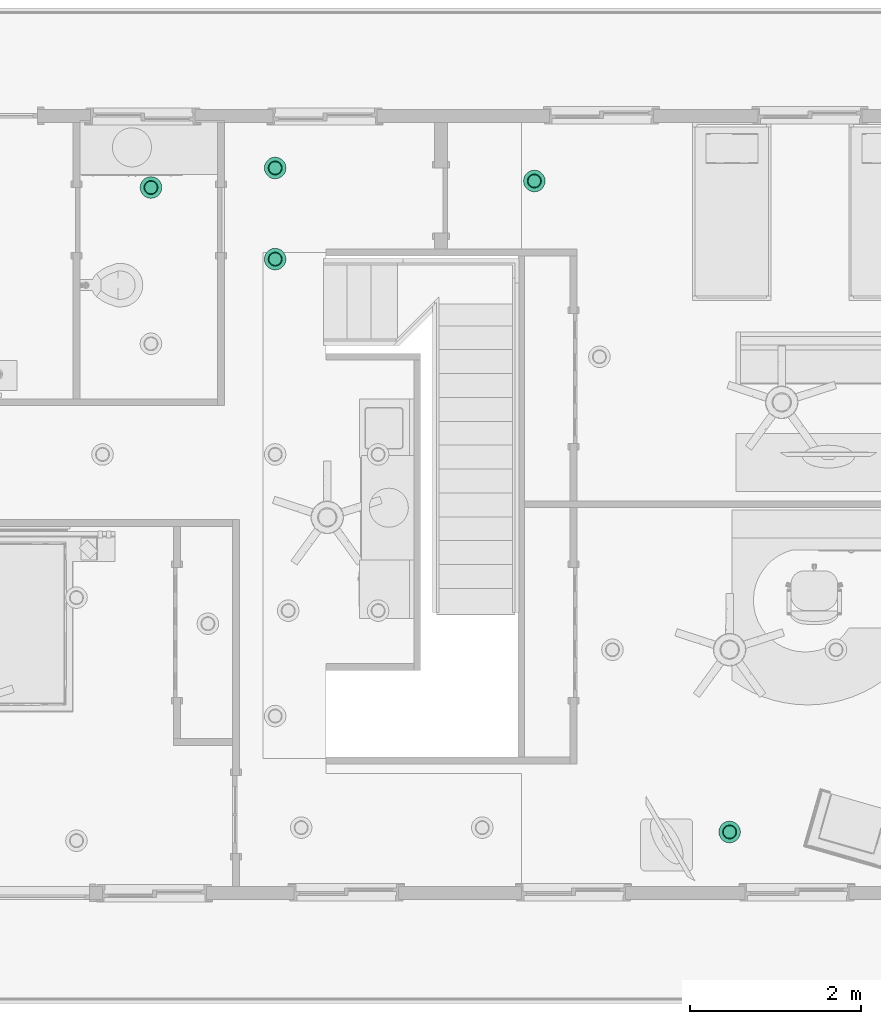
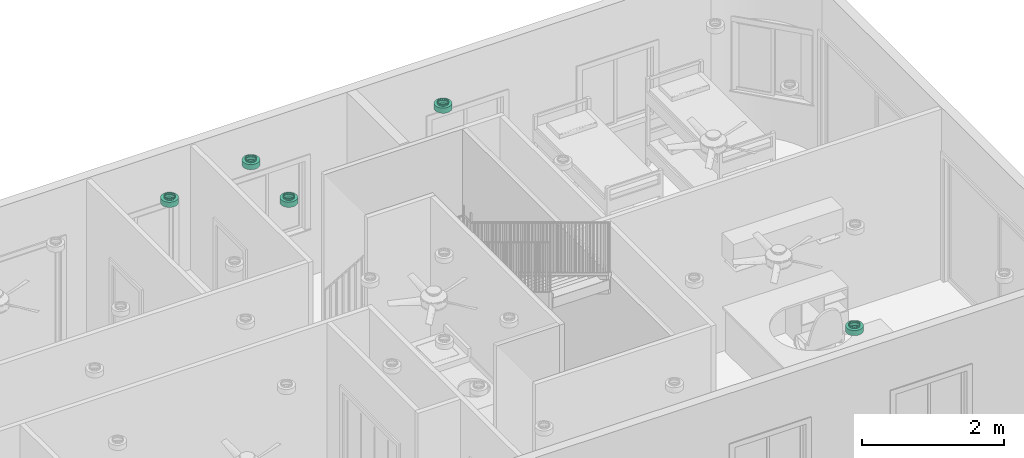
# One storey, part 18 of 28: 5 flow terminals.
"""IFC2X3 building model written with IfcOpenShell, lengths in feet."""

import ifcopenshell
import ifcopenshell.guid

model = None  # the IFC model being written
_history = None  # IfcOwnerHistory: only IFC2X3 demands one
_inside = {}  # id of a spatial element -> (the spatial element, [elements in it])
_under = {}  # id of a project, library or spatial element -> (it, [spatial elements below it])
_declared = {}  # id of a project -> (the project, [libraries it declares])
_typed = {}  # id of a type object -> (the type object, [elements of that type])
_made_of = {}  # id of a material, layer set ... -> (it, [elements and type objects made of it])


def new_model(schema):
    """Start an empty IFC model of exactly this schema.

    Asked for "IFC4X3", IfcOpenShell would pick the latest addendum, in which some entities
    have other attributes; the version numbers below select the first issue.
    IFC2X3 requires an IfcOwnerHistory on every rooted entity: one is made here for all.
    """
    global model, _history
    if schema == "IFC4X3":
        model = ifcopenshell.file(schema_version=(4, 3, 0, 0))
    else:
        model = ifcopenshell.file(schema=schema)
    _inside.clear()
    _under.clear()
    _declared.clear()
    _typed.clear()
    _made_of.clear()
    _history = None
    if model.schema == "IFC2X3":
        org = make("IfcOrganization", Name="unknown")
        user = make(
            "IfcPersonAndOrganization",
            ThePerson=make("IfcPerson", FamilyName="unknown"),
            TheOrganization=org,
        )
        app = make(
            "IfcApplication",
            ApplicationDeveloper=org,
            Version="unknown",
            ApplicationFullName="unknown",
            ApplicationIdentifier="unknown",
        )
        _history = make(
            "IfcOwnerHistory",
            OwningUser=user,
            OwningApplication=app,
            ChangeAction="ADDED",
            CreationDate=0,
        )
    return model


def make(cls, **values):
    """One entity of the class cls with the attributes given. An attribute that is None is left unset."""
    return model.create_entity(
        cls, **{name: value for name, value in values.items() if value is not None}
    )


def entity(cls, *values):
    """Any entity or typed value of the class cls, its attributes in the order of the schema. None: left unset."""
    e = model.create_entity(cls)
    for i, value in enumerate(values):
        if value is not None:
            e[i] = value
    return e


def rooted(cls, **values):
    """An entity with a GlobalId (a new one), such as an element, a storey or a relation."""
    return make(cls, GlobalId=ifcopenshell.guid.new(), OwnerHistory=_history, **values)


def si_unit(unit_type, name, prefix=None):
    """IfcSIUnit, for example si_unit("LENGTHUNIT", "METRE", prefix="MILLI")."""
    return make("IfcSIUnit", UnitType=unit_type, Prefix=prefix, Name=name)


def converted_unit(unit_type, name, factor, base, dimensions=None, offset=None):
    """IfcConversionBasedUnit, such as the inch: factor (a typed value) times the base unit."""
    return make(
        "IfcConversionBasedUnit"
        if offset is None
        else "IfcConversionBasedUnitWithOffset",
        ConversionOffset=offset,
        Dimensions=None
        if dimensions is None
        else entity("IfcDimensionalExponents", *dimensions),
        UnitType=unit_type,
        Name=name,
        ConversionFactor=make(
            "IfcMeasureWithUnit", ValueComponent=factor, UnitComponent=base
        ),
    )


def derived_unit(unit_type, elements):
    """IfcDerivedUnit: a product of units, each with its exponent."""
    return make(
        "IfcDerivedUnit",
        Elements=[
            make("IfcDerivedUnitElement", Unit=unit, Exponent=power)
            for unit, power in elements
        ],
        UnitType=unit_type,
    )


def assignment(units):
    """IfcUnitAssignment: the units of a project."""
    return None if units is None else make("IfcUnitAssignment", Units=units)


def point(xyz):
    """IfcCartesianPoint."""
    return None if xyz is None else make("IfcCartesianPoint", Coordinates=xyz)


def direction(xyz):
    """IfcDirection."""
    return None if xyz is None else make("IfcDirection", DirectionRatios=xyz)


def frame(location, z_axis=None, x_axis=None):
    """IfcAxis2Placement3D, a coordinate frame: its origin and axes. An axis left out is left unset."""
    return make(
        "IfcAxis2Placement3D",
        Location=point(location),
        Axis=direction(z_axis),
        RefDirection=direction(x_axis),
    )


def origin():
    """The frame at (0, 0, 0) with its axes left unset."""
    return frame((0.0, 0.0, 0.0))


def place(relative_to, where):
    """IfcLocalPlacement: puts the frame where relative to a parent placement (None: the world)."""
    return make(
        "IfcLocalPlacement", PlacementRelTo=relative_to, RelativePlacement=where
    )


def context(
    kind, dimensions, precision=None, world=None, true_north=None, identifier=None
):
    """IfcGeometricRepresentationContext, for example the 3D "Model" context."""
    return make(
        "IfcGeometricRepresentationContext",
        ContextIdentifier=identifier,
        ContextType=kind,
        CoordinateSpaceDimension=dimensions,
        Precision=precision,
        WorldCoordinateSystem=world,
        TrueNorth=true_north,
    )


def subcontext(parent, identifier, kind, view, scale=None):
    """IfcGeometricRepresentationSubContext, for example "Body" below "Model"."""
    return make(
        "IfcGeometricRepresentationSubContext",
        ContextIdentifier=identifier,
        ContextType=kind,
        ParentContext=parent,
        TargetScale=scale,
        TargetView=view,
    )


def project(units=None, contexts=None):
    """IfcProject with its units and contexts."""
    return rooted(
        "IfcProject",
        Name="project",
        RepresentationContexts=contexts,
        UnitsInContext=assignment(units),
    )


def spatial(cls, under=None, at=None, **own):
    """A site, building, storey or space (cls), placed at a placement, below another one or the project."""
    s = rooted(cls, ObjectPlacement=at, **own)
    if under is not None:
        _under.setdefault(under.id(), (under, []))[1].append(s)
    return s


def faces_of(points, faces, orient=None, outer=None):
    """IfcFace entities. A face is a list of loops; a loop is a list of indices into points, from 0.

    orient and outer hold one flag for each loop. By default every Orientation is true, the
    first loop of a face is its IfcFaceOuterBound and the others are IfcFaceBound.
    """
    made = []
    for i, loops in enumerate(faces):
        bounds = []
        for j, loop in enumerate(loops):
            is_outer = j == 0 if outer is None else outer[i][j]
            bounds.append(
                make(
                    "IfcFaceOuterBound" if is_outer else "IfcFaceBound",
                    Bound=make("IfcPolyLoop", Polygon=[points[k] for k in loop]),
                    Orientation=True if orient is None else orient[i][j],
                )
            )
        made.append(make("IfcFace", Bounds=bounds))
    return made


def faceted_brep(points, faces, orient=None, outer=None, voids=None):
    """IfcFacetedBrep: a solid bounded by flat faces; with voids (closed shells), ...WithVoids."""
    shared = [point(p) for p in points]
    hull = make("IfcClosedShell", CfsFaces=faces_of(shared, faces, orient, outer))
    if voids is None:
        return make("IfcFacetedBrep", Outer=hull)
    return make(
        "IfcFacetedBrepWithVoids",
        Outer=hull,
        Voids=[
            make(cls, CfsFaces=faces_of(shared, fs, o, b)) for cls, fs, o, b in voids
        ],
    )


def shape(context_of_items, identifier, shape_type, items):
    """IfcShapeRepresentation: the items that make up one representation, for example the "Body"."""
    return make(
        "IfcShapeRepresentation",
        ContextOfItems=context_of_items,
        RepresentationIdentifier=identifier,
        RepresentationType=shape_type,
        Items=items,
    )


def source(mapping_origin, context_of_items, identifier, shape_type, items):
    """IfcRepresentationMap: a shape defined once, which mapped items show again and again."""
    return make(
        "IfcRepresentationMap",
        MappingOrigin=mapping_origin,
        MappedRepresentation=shape(context_of_items, identifier, shape_type, items),
    )


def transform(
    local_origin,
    x_axis=None,
    y_axis=None,
    z_axis=None,
    scale=None,
    scale2=None,
    scale3=None,
    uniform=True,
):
    """IfcCartesianTransformationOperator3D, or its non-uniform kind. x_axis, y_axis, z_axis: its Axis1, 2, 3."""
    if uniform:
        return make(
            "IfcCartesianTransformationOperator3D",
            Axis1=direction(x_axis),
            Axis2=direction(y_axis),
            LocalOrigin=point(local_origin),
            Scale=scale,
            Axis3=direction(z_axis),
        )
    return make(
        "IfcCartesianTransformationOperator3DnonUniform",
        Axis1=direction(x_axis),
        Axis2=direction(y_axis),
        LocalOrigin=point(local_origin),
        Scale=scale,
        Axis3=direction(z_axis),
        Scale2=scale2,
        Scale3=scale3,
    )


def mapped(mapping_source, mapping_target):
    """IfcMappedItem: shows the shape of a source again, moved by a transform."""
    return make(
        "IfcMappedItem", MappingSource=mapping_source, MappingTarget=mapping_target
    )


def material(Name=None, Category=None):
    """IfcMaterial."""
    return make("IfcMaterial", Name=Name, Category=Category)


def material_list(materials):
    """IfcMaterialList."""
    return make("IfcMaterialList", Materials=materials)


def made_of(thing, what):
    """Note that an element or type object is made of a material, layer set ...; save() writes the relation."""
    if what is not None:
        _made_of.setdefault(what.id(), (what, []))[1].append(thing)
    return thing


def type_object(cls, material=None, **own):
    """A type object (cls), such as IfcWallType, which elements share."""
    return made_of(rooted(cls, **own), material)


def type_shapes(of_type, sources):
    """Give a type object the sources (RepresentationMaps) that its elements show as mapped items."""
    of_type.RepresentationMaps = sources


def element(
    cls,
    number,
    at=None,
    inside=None,
    cuts=None,
    type_object=None,
    material=None,
    context=None,
    identifier="Body",
    shape_type=None,
    held_by="IfcProductDefinitionShape",
    body=None,
    shapes=None,
    **own,
):
    """One element of the class cls, such as IfcWall. Its Tag is "e" and its number.

    at: its placement. inside: the storey or other place that contains it. cuts: it is an
    opening in that element (IfcRelVoidsElement). A single representation is given by context,
    identifier, shape_type and body (its items); several are given by shapes. held_by: the class
    of the entity that holds the representations. save() writes the other relations.
    """
    e = rooted(cls, Tag="e%d" % number, ObjectPlacement=at, **own)
    if body is not None:
        shapes = [shape(context, identifier, shape_type, body)]
    if shapes is not None:
        e.Representation = make(held_by, Representations=shapes)
    if inside is not None:
        _inside.setdefault(inside.id(), (inside, []))[1].append(e)
    if cuts is not None:
        rooted(
            "IfcRelVoidsElement", RelatingBuildingElement=cuts, RelatedOpeningElement=e
        )
    if type_object is not None:
        _typed.setdefault(type_object.id(), (type_object, []))[1].append(e)
    return made_of(e, material)


def aggregate(whole, parts):
    """IfcRelAggregates: a whole, such as a stair, and the parts it consists of."""
    return rooted("IfcRelAggregates", RelatingObject=whole, RelatedObjects=parts)


def save(model, path):
    """Write the relations noted so far, then the file.

    IfcRelAggregates (storeys below a building ...), IfcRelContainedInSpatialStructure (elements
    in a storey), IfcRelDefinesByType, IfcRelAssociatesMaterial and IfcRelDeclares: one each for
    every whole, place, type object, material and project.
    """
    for whole, parts in _under.values():
        aggregate(whole, parts)
    for where, things in _inside.values():
        rooted(
            "IfcRelContainedInSpatialStructure",
            RelatedElements=things,
            RelatingStructure=where,
        )
    for kind, things in _typed.values():
        rooted("IfcRelDefinesByType", RelatedObjects=things, RelatingType=kind)
    for what, things in _made_of.values():
        rooted("IfcRelAssociatesMaterial", RelatedObjects=things, RelatingMaterial=what)
    for by, libraries in _declared.values():
        rooted("IfcRelDeclares", RelatingContext=by, RelatedDefinitions=libraries)
    model.write(path)


model = new_model("IFC2X3")

# Units and contexts
model_context = context("Model", 3, precision=0.0001, world=origin(), true_north=direction((6.12303176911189e-17, 1.0)))
body_context = subcontext(model_context, "Body", "Model", "MODEL_VIEW")
ifc_project = project(units=[converted_unit("LENGTHUNIT", "FOOT", entity("IfcRatioMeasure", 0.3048), si_unit("LENGTHUNIT", "METRE"), dimensions=[1, 0, 0, 0, 0, 0, 0]), converted_unit("AREAUNIT", "SQUARE FOOT", entity("IfcRatioMeasure", 0.09290304), si_unit("AREAUNIT", "SQUARE_METRE"), dimensions=[2, 0, 0, 0, 0, 0, 0]), converted_unit("VOLUMEUNIT", "CUBIC FOOT", entity("IfcRatioMeasure", 0.028316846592), si_unit("VOLUMEUNIT", "CUBIC_METRE"), dimensions=[3, 0, 0, 0, 0, 0, 0]), converted_unit("PLANEANGLEUNIT", "DEGREE", entity("IfcRatioMeasure", 0.0174532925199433), si_unit("PLANEANGLEUNIT", "RADIAN"), dimensions=[0, 0, 0, 0, 0, 0, 0]), si_unit("MASSUNIT", "GRAM", prefix="KILO"), derived_unit("MASSDENSITYUNIT", [(si_unit("MASSUNIT", "GRAM", prefix="KILO"), 1), (si_unit("LENGTHUNIT", "METRE"), -3)]), si_unit("TIMEUNIT", "SECOND"), si_unit("FREQUENCYUNIT", "HERTZ"), si_unit("THERMODYNAMICTEMPERATUREUNIT", "DEGREE_CELSIUS"), derived_unit("THERMALTRANSMITTANCEUNIT", [(si_unit("MASSUNIT", "GRAM", prefix="KILO"), 1), (si_unit("THERMODYNAMICTEMPERATUREUNIT", "KELVIN"), -1), (si_unit("TIMEUNIT", "SECOND"), -3)]), derived_unit("VOLUMETRICFLOWRATEUNIT", [(si_unit("LENGTHUNIT", "METRE"), 3), (si_unit("TIMEUNIT", "SECOND"), -1)]), si_unit("ELECTRICCURRENTUNIT", "AMPERE"), si_unit("ELECTRICVOLTAGEUNIT", "VOLT"), si_unit("POWERUNIT", "WATT"), si_unit("FORCEUNIT", "NEWTON"), si_unit("ILLUMINANCEUNIT", "LUX"), si_unit("LUMINOUSFLUXUNIT", "LUMEN"), si_unit("LUMINOUSINTENSITYUNIT", "CANDELA"), derived_unit("USERDEFINED", [(si_unit("MASSUNIT", "GRAM", prefix="KILO"), -1), (si_unit("LENGTHUNIT", "METRE"), -2), (si_unit("TIMEUNIT", "SECOND"), 3), (si_unit("LUMINOUSFLUXUNIT", "LUMEN"), 1)]), derived_unit("LINEARVELOCITYUNIT", [(si_unit("LENGTHUNIT", "METRE"), 1), (si_unit("TIMEUNIT", "SECOND"), -1)]), si_unit("PRESSUREUNIT", "PASCAL"), derived_unit("USERDEFINED", [(si_unit("LENGTHUNIT", "METRE"), -2), (si_unit("MASSUNIT", "GRAM", prefix="KILO"), 1), (si_unit("TIMEUNIT", "SECOND"), -2)])], contexts=[model_context])

# Site, building, storey
site_placement = place(None, origin())
site = spatial("IfcSite", under=ifc_project, at=site_placement, Name="表面", CompositionType="ELEMENT")
building_placement = place(site_placement, origin())
building = spatial("IfcBuilding", under=site, at=building_placement, CompositionType="ELEMENT")
storey_placement = place(building_placement, frame((0.0, 0.0, 10.0)))
storey = spatial("IfcBuildingStorey", under=building, at=storey_placement, Name="Level 2", CompositionType="ELEMENT", Elevation=9.99999999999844)

# Flow terminals
ifc_material_1 = material(Name="Metal - Paint Finish - Dark Gray, Matte")
ifc_material_2 = material(Name="Glass - White, High Luminance")
ifc_material_list_1 = material_list([ifc_material_1, ifc_material_2])
ifc_material_list_2 = material_list([ifc_material_1, ifc_material_2])
light_fixture_type = type_object("IfcLightFixtureType", Name="100W - 277V", PredefinedType="NOTDEFINED", material=ifc_material_list_2)
shared_shape = source(origin(), body_context, "Body", "Brep", [
    faceted_brep([(0.557291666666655, 0.187326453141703, 0.374999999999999), (0.598651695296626, 0.245098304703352, 0.374999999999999), (0.558098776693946, 0.218001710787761, 0.374999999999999), (0.629345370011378, 0.247786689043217, 0.374999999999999), (0.517545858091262, 0.190905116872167, 0.374999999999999), (0.468904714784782, 0.155156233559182, 0.374999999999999), (0.625748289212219, 0.285651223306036, 0.374999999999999), (0.65284488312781, 0.326204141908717, 0.374999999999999), (0.676375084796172, 0.329244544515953, 0.374999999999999), (0.6623599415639, 0.374039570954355, 0.374999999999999), (0.671874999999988, 0.42187499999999, 0.374999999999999), (0.692708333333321, 0.421874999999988, 0.374999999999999), (0.676375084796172, 0.514505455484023, 0.374999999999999), (0.662359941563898, 0.469710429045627, 0.374999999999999), (0.652844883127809, 0.517545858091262, 0.374999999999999), (0.629345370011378, 0.595963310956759, 0.374999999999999), (0.625748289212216, 0.558098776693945, 0.374999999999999), (0.598651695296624, 0.598651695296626, 0.374999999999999), (0.557291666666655, 0.656423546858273, 0.374999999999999), (0.55809877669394, 0.625748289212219, 0.374999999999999), (0.517545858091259, 0.65284488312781, 0.374999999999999), (0.468904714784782, 0.688593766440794, 0.374999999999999), (0.469710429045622, 0.662359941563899, 0.374999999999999), (0.421874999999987, 0.671874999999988, 0.374999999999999), (0.374845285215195, 0.688593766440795, 0.374999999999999), (0.374039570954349, 0.662359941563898, 0.374999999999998), (0.326204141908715, 0.652844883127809, 0.374999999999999), (0.286458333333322, 0.656423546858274, 0.374999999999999), (0.285651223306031, 0.625748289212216, 0.374999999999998), (0.245098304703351, 0.598651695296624, 0.374999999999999), (0.214404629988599, 0.59596331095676, 0.374999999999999), (0.218001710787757, 0.558098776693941, 0.374999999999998), (0.190905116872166, 0.51754585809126, 0.374999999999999), (0.167374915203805, 0.514505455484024, 0.374999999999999), (0.181390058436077, 0.469710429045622, 0.374999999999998), (0.171874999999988, 0.421874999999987, 0.374999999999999), (0.151041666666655, 0.421874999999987, 0.374999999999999), (0.167374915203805, 0.329244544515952, 0.374999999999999), (0.181390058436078, 0.374039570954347, 0.374999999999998), (0.190905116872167, 0.326204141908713, 0.374999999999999), (0.214404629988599, 0.247786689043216, 0.374999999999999), (0.218001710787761, 0.28565122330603, 0.374999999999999), (0.245098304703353, 0.245098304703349, 0.374999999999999), (0.286458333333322, 0.187326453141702, 0.374999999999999), (0.285651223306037, 0.218001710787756, 0.374999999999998), (0.326204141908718, 0.190905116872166, 0.374999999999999), (0.374845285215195, 0.155156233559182, 0.374999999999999), (0.42187499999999, 0.171874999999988, 0.374999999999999), (0.374039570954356, 0.181390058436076, 0.374999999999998), (0.469710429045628, 0.181390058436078, 0.374999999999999), (0.557291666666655, 0.656423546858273, 0.291666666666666), (0.598651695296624, 0.598651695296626, 0.291666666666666), (0.55809877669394, 0.625748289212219, 0.291666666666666), (0.629345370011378, 0.595963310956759, 0.291666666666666), (0.517545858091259, 0.65284488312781, 0.291666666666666), (0.468904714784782, 0.688593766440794, 0.291666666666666), (0.625748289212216, 0.558098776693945, 0.291666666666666), (0.652844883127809, 0.517545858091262, 0.291666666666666), (0.676375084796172, 0.514505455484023, 0.291666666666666), (0.662359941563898, 0.469710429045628, 0.291666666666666), (0.671874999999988, 0.42187499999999, 0.291666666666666), (0.692708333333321, 0.421874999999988, 0.291666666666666), (0.676375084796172, 0.329244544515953, 0.291666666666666), (0.659760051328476, 0.36096904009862, 0.291666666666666), (0.65284488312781, 0.326204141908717, 0.291666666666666), (0.629345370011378, 0.247786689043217, 0.291666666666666), (0.625748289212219, 0.285651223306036, 0.291666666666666), (0.598651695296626, 0.245098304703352, 0.291666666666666), (0.557291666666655, 0.187326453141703, 0.291666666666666), (0.558098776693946, 0.218001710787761, 0.291666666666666), (0.517545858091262, 0.190905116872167, 0.291666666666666), (0.468904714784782, 0.155156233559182, 0.291666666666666), (0.469710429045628, 0.181390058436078, 0.291666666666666), (0.42187499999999, 0.171874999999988, 0.291666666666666), (0.374845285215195, 0.155156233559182, 0.291666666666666), (0.374039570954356, 0.181390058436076, 0.291666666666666), (0.326204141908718, 0.190905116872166, 0.291666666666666), (0.286458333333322, 0.187326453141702, 0.291666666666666), (0.285651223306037, 0.218001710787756, 0.291666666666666), (0.245098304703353, 0.245098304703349, 0.291666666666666), (0.214404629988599, 0.247786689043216, 0.291666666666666), (0.218001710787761, 0.28565122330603, 0.291666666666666), (0.190905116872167, 0.326204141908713, 0.291666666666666), (0.167374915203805, 0.329244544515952, 0.291666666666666), (0.181390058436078, 0.374039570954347, 0.291666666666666), (0.171874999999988, 0.421874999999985, 0.291666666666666), (0.151041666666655, 0.421874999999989, 0.291666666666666), (0.167374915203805, 0.514505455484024, 0.291666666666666), (0.183989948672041, 0.482780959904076, 0.291666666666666), (0.190905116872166, 0.51754585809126, 0.291666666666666), (0.214404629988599, 0.59596331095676, 0.291666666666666), (0.218001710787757, 0.558098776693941, 0.291666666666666), (0.245098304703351, 0.598651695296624, 0.291666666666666), (0.286458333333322, 0.656423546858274, 0.291666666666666), (0.285651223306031, 0.625748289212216, 0.291666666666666), (0.326204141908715, 0.652844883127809, 0.291666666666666), (0.374845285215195, 0.688593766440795, 0.291666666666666), (0.421874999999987, 0.671874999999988, 0.291666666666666), (0.374039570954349, 0.662359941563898, 0.291666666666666), (0.469710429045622, 0.662359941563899, 0.291666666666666)], [[[0, 1, 2]], [[1, 0, 3]], [[0, 2, 4]], [[4, 5, 0]], [[3, 6, 1]], [[3, 7, 6]], [[7, 3, 8]], [[8, 9, 7]], [[8, 10, 9]], [[10, 8, 11]], [[10, 11, 12]], [[12, 13, 10]], [[12, 14, 13]], [[15, 14, 12]], [[15, 16, 14]], [[15, 17, 16]], [[18, 17, 15]], [[18, 19, 17]], [[18, 20, 19]], [[21, 20, 18]], [[21, 22, 20]], [[21, 23, 22]], [[24, 23, 21]], [[24, 25, 23]], [[24, 26, 25]], [[27, 26, 24]], [[27, 28, 26]], [[27, 29, 28]], [[29, 27, 30]], [[30, 31, 29]], [[30, 32, 31]], [[32, 30, 33]], [[33, 34, 32]], [[33, 35, 34]], [[36, 35, 33]], [[37, 35, 36]], [[37, 38, 35]], [[37, 39, 38]], [[39, 37, 40]], [[40, 41, 39]], [[40, 42, 41]], [[42, 40, 43]], [[43, 44, 42]], [[43, 45, 44]], [[45, 43, 46]], [[47, 46, 5]], [[46, 47, 48]], [[46, 48, 45]], [[5, 4, 49]], [[5, 49, 47]], [[50, 51, 52]], [[51, 50, 53]], [[50, 52, 54]], [[54, 55, 50]], [[53, 56, 51]], [[53, 57, 56]], [[57, 53, 58]], [[58, 59, 57]], [[58, 60, 59]], [[60, 58, 61]], [[60, 61, 62]], [[62, 63, 60]], [[62, 64, 63]], [[65, 64, 62]], [[65, 66, 64]], [[65, 67, 66]], [[68, 67, 65]], [[68, 69, 67]], [[68, 70, 69]], [[71, 70, 68]], [[71, 72, 70]], [[71, 73, 72]], [[74, 73, 71]], [[74, 75, 73]], [[74, 76, 75]], [[77, 76, 74]], [[77, 78, 76]], [[77, 79, 78]], [[79, 77, 80]], [[80, 81, 79]], [[80, 82, 81]], [[82, 80, 83]], [[83, 84, 82]], [[83, 85, 84]], [[86, 85, 83]], [[87, 85, 86]], [[87, 88, 85]], [[87, 89, 88]], [[89, 87, 90]], [[90, 91, 89]], [[90, 92, 91]], [[92, 90, 93]], [[93, 94, 92]], [[93, 95, 94]], [[95, 93, 96]], [[97, 96, 55]], [[96, 97, 98]], [[96, 98, 95]], [[55, 54, 99]], [[55, 99, 97]], [[37, 36, 86, 83]], [[43, 40, 80, 77]], [[83, 80, 40, 37]], [[77, 74, 46, 43]], [[74, 71, 5, 46]], [[0, 5, 71, 68]], [[8, 3, 65, 62]], [[68, 65, 3, 0]], [[62, 61, 11, 8]], [[12, 11, 61, 58]], [[18, 15, 53, 50]], [[58, 53, 15, 12]], [[50, 55, 21, 18]], [[55, 96, 24, 21]], [[27, 24, 96, 93]], [[87, 33, 30, 90]], [[90, 30, 27, 93]], [[33, 87, 86, 36]], [[34, 35, 85, 88, 89, 32]], [[89, 91, 92, 29, 31, 32]], [[59, 60, 10, 13, 14, 57]], [[92, 94, 95, 26, 28, 29]], [[23, 25, 26, 95, 98, 97]], [[97, 99, 54, 20, 22, 23]], [[16, 17, 51, 56, 57, 14]], [[54, 52, 51, 17, 19, 20]], [[9, 10, 60, 63, 64, 7]], [[64, 66, 67, 1, 6, 7]], [[84, 85, 35, 38, 39, 82]], [[67, 69, 70, 4, 2, 1]], [[47, 49, 4, 70, 72, 73]], [[73, 75, 76, 45, 48, 47]], [[41, 42, 79, 81, 82, 39]], [[76, 78, 79, 42, 44, 45]]]),
    faceted_brep([(0.671874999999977, 0.421874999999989, 0.291666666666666), (0.838541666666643, 0.421874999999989, 0.291666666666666), (0.81814854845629, 0.550632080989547, 0.291666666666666), (0.818148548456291, 0.293117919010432, 0.291666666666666), (0.659760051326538, 0.360969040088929, 0.291666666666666), (0.662359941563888, 0.469710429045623, 0.291666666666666), (0.6528448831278, 0.326204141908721, 0.291666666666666), (0.758965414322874, 0.176964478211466, 0.291666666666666), (0.625748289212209, 0.28565122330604, 0.291666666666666), (0.598651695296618, 0.24509830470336, 0.291666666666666), (0.666785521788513, 0.084784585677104, 0.291666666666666), (0.558098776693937, 0.218001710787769, 0.291666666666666), (0.517545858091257, 0.190905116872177, 0.291666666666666), (0.550632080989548, 0.025601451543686, 0.291666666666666), (0.469710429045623, 0.181390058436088, 0.291666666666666), (0.421874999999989, 0.171874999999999, 0.291666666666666), (0.42187499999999, 0.00520833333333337, 0.291666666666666), (0.293117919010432, 0.0256014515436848, 0.291666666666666), (0.374039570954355, 0.181390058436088, 0.291666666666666), (0.326204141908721, 0.190905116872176, 0.291666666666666), (0.176964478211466, 0.0847845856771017, 0.291666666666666), (0.285651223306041, 0.218001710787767, 0.291666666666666), (0.24509830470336, 0.245098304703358, 0.291666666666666), (0.0847845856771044, 0.176964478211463, 0.291666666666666), (0.218001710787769, 0.285651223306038, 0.291666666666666), (0.190905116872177, 0.326204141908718, 0.291666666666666), (0.0256014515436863, 0.293117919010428, 0.291666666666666), (0.181390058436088, 0.374039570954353, 0.291666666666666), (0.171874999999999, 0.421874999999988, 0.291666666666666), (0.00520833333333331, 0.421874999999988, 0.291666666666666), (0.0256014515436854, 0.550632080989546, 0.291666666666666), (0.183989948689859, 0.482780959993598, 0.291666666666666), (0.190905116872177, 0.517545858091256, 0.291666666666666), (0.0847845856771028, 0.666785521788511, 0.291666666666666), (0.218001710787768, 0.558098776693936, 0.291666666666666), (0.245098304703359, 0.598651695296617, 0.291666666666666), (0.176964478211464, 0.758965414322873, 0.291666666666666), (0.285651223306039, 0.625748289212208, 0.291666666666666), (0.32620414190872, 0.652844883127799, 0.291666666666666), (0.29311791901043, 0.81814854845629, 0.291666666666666), (0.374039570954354, 0.662359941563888, 0.291666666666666), (0.421874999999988, 0.671874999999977, 0.291666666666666), (0.421874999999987, 0.838541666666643, 0.291666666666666), (0.550632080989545, 0.818148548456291, 0.291666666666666), (0.469710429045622, 0.662359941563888, 0.291666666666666), (0.517545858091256, 0.6528448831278, 0.291666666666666), (0.666785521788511, 0.758965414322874, 0.291666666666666), (0.558098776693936, 0.625748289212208, 0.291666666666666), (0.598651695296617, 0.598651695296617, 0.291666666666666), (0.758965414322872, 0.666785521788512, 0.291666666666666), (0.625748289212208, 0.558098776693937, 0.291666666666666), (0.652844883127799, 0.517545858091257, 0.291666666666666), (0.0256014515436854, 0.550632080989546, 0.0), (0.00520833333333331, 0.421874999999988, 0.0), (0.0847845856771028, 0.666785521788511, 0.0), (0.176964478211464, 0.758965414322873, 0.0), (0.29311791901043, 0.818148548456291, 0.0), (0.421874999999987, 0.838541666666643, 0.0), (0.550632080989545, 0.818148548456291, 0.0), (0.666785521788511, 0.758965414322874, 0.0), (0.758965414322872, 0.666785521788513, 0.0), (0.81814854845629, 0.550632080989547, 0.0), (0.838541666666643, 0.42187499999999, 0.0), (0.818148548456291, 0.293117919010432, 0.0), (0.666785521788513, 0.0847845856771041, 0.0), (0.550632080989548, 0.025601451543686, 0.0), (0.42187499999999, 0.00520833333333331, 0.0), (0.758965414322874, 0.176964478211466, 0.0), (0.293117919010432, 0.0256014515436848, 0.0), (0.176964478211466, 0.0847845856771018, 0.0), (0.0847845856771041, 0.176964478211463, 0.0), (0.025601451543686, 0.293117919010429, 0.0), (0.421874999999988, 0.421874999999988, 0.0), (0.808241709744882, 0.547413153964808, 0.0104166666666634), (0.421874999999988, 0.421874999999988, 0.0104166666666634), (0.828124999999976, 0.421874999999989, 0.0104166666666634), (0.7505381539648, 0.660662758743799, 0.0104166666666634), (0.660662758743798, 0.750538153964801, 0.0104166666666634), (0.547413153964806, 0.808241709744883, 0.0104166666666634), (0.421874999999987, 0.828124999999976, 0.0104166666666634), (0.296336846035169, 0.808241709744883, 0.0104166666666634), (0.183087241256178, 0.750538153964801, 0.0104166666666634), (0.0932118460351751, 0.660662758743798, 0.0104166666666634), (0.0355082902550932, 0.547413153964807, 0.0104166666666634), (0.0156249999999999, 0.421874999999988, 0.0104166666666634), (0.0355082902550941, 0.296336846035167, 0.0104166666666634), (0.0932118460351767, 0.183087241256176, 0.0104166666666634), (0.18308724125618, 0.093211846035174, 0.0104166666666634), (0.296336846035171, 0.0355082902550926, 0.0104166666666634), (0.42187499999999, 0.0156249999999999, 0.0104166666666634), (0.547413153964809, 0.0355082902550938, 0.0104166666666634), (0.6606627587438, 0.0932118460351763, 0.0104166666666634), (0.750538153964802, 0.183087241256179, 0.0104166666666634), (0.808241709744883, 0.296336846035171, 0.0104166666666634), (0.0355082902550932, 0.547413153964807, 0.281249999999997), (0.0156249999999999, 0.421874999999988, 0.281249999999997), (0.0932118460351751, 0.660662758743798, 0.281249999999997), (0.183087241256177, 0.750538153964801, 0.281249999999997), (0.296336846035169, 0.808241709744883, 0.281249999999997), (0.421874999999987, 0.828124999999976, 0.281249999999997), (0.660662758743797, 0.750538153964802, 0.281249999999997), (0.547413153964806, 0.808241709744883, 0.281249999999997), (0.808241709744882, 0.547413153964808, 0.281249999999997), (0.7505381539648, 0.660662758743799, 0.281249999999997), (0.828124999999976, 0.42187499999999, 0.281249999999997), (0.808241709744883, 0.296336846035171, 0.281249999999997), (0.547413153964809, 0.0355082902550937, 0.281249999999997), (0.6606627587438, 0.0932118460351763, 0.281249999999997), (0.42187499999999, 0.0156249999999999, 0.281249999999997), (0.750538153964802, 0.183087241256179, 0.281249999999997), (0.183087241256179, 0.0932118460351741, 0.281249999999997), (0.296336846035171, 0.0355082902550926, 0.281249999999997), (0.0355082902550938, 0.296336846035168, 0.281249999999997), (0.0932118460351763, 0.183087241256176, 0.281249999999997), (0.66145833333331, 0.421874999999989, 0.281249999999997), (0.650878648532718, 0.475062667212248, 0.281249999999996), (0.643221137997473, 0.513559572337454, 0.281249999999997), (0.650878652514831, 0.368687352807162, 0.281249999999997), (0.643221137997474, 0.330190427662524, 0.281249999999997), (0.617253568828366, 0.291327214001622, 0.281249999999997), (0.591285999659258, 0.25246400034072, 0.281249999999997), (0.552422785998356, 0.226496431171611, 0.281249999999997), (0.513559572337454, 0.200528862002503, 0.281249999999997), (0.467717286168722, 0.191410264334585, 0.281249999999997), (0.421874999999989, 0.182291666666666, 0.281249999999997), (0.376032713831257, 0.191410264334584, 0.281249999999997), (0.330190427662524, 0.200528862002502, 0.281249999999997), (0.291327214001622, 0.22649643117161, 0.281249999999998), (0.25246400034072, 0.252464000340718, 0.281249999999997), (0.226496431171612, 0.29132721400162, 0.281249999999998), (0.200528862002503, 0.330190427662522, 0.281249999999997), (0.191410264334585, 0.376032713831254, 0.281249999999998), (0.182291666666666, 0.421874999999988, 0.281249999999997), (0.192871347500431, 0.47506264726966, 0.281249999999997), (0.200528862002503, 0.513559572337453, 0.281249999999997), (0.226496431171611, 0.552422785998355, 0.281249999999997), (0.252464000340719, 0.591285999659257, 0.281249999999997), (0.291327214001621, 0.617253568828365, 0.281249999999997), (0.330190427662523, 0.643221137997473, 0.281249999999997), (0.376032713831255, 0.652339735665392, 0.281249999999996), (0.421874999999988, 0.66145833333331, 0.281249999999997), (0.46771728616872, 0.652339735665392, 0.281249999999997), (0.513559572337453, 0.643221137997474, 0.281249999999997), (0.591285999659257, 0.591285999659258, 0.281249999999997), (0.552422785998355, 0.617253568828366, 0.281249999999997), (0.617253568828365, 0.552422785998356, 0.281249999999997), (0.191410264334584, 0.467717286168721, 0.375), (0.182291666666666, 0.421874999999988, 0.375), (0.200528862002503, 0.513559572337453, 0.375), (0.252464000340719, 0.591285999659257, 0.375), (0.226496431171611, 0.552422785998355, 0.375), (0.330190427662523, 0.643221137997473, 0.375), (0.291327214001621, 0.617253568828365, 0.375), (0.421874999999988, 0.66145833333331, 0.375), (0.376032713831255, 0.652339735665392, 0.375), (0.552422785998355, 0.617253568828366, 0.375), (0.513559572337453, 0.643221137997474, 0.375), (0.591285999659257, 0.591285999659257, 0.375), (0.643221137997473, 0.513559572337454, 0.375), (0.617253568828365, 0.552422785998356, 0.375), (0.46771728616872, 0.652339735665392, 0.375), (0.652339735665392, 0.467717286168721, 0.375), (0.66145833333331, 0.421874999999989, 0.375), (0.652339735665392, 0.376032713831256, 0.375), (0.643221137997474, 0.330190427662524, 0.375), (0.591285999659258, 0.25246400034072, 0.375), (0.617253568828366, 0.291327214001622, 0.375), (0.513559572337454, 0.200528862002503, 0.375), (0.552422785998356, 0.226496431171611, 0.375), (0.421874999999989, 0.182291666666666, 0.375), (0.467717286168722, 0.191410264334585, 0.375), (0.200528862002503, 0.330190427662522, 0.375), (0.192871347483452, 0.368687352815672, 0.375), (0.25246400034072, 0.252464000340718, 0.375), (0.291327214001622, 0.22649643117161, 0.375), (0.330190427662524, 0.200528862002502, 0.375), (0.226496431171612, 0.29132721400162, 0.375), (0.376032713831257, 0.191410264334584, 0.375), (0.671874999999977, 0.421874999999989, 0.375), (0.659760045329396, 0.482780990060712, 0.375), (0.652844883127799, 0.517545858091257, 0.375), (0.662359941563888, 0.374039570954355, 0.375), (0.6528448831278, 0.326204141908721, 0.375), (0.625748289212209, 0.28565122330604, 0.375), (0.598651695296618, 0.24509830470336, 0.375), (0.558098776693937, 0.218001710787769, 0.375), (0.517545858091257, 0.190905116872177, 0.375), (0.469710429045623, 0.181390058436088, 0.375), (0.421874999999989, 0.171874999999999, 0.375), (0.374039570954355, 0.181390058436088, 0.375), (0.326204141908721, 0.190905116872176, 0.375), (0.285651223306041, 0.218001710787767, 0.375), (0.24509830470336, 0.245098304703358, 0.375), (0.218001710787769, 0.285651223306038, 0.375), (0.190905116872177, 0.326204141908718, 0.375), (0.183989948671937, 0.360969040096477, 0.375), (0.171874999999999, 0.421874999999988, 0.375), (0.181390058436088, 0.469710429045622, 0.375), (0.190905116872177, 0.517545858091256, 0.375), (0.218001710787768, 0.558098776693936, 0.375), (0.245098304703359, 0.598651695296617, 0.375), (0.285651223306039, 0.625748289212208, 0.375), (0.32620414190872, 0.652844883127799, 0.375), (0.374039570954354, 0.662359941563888, 0.375), (0.421874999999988, 0.671874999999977, 0.375), (0.469710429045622, 0.662359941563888, 0.375), (0.517545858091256, 0.6528448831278, 0.375), (0.558098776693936, 0.625748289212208, 0.375), (0.598651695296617, 0.598651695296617, 0.375), (0.625748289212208, 0.558098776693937, 0.375)], [[[0, 1, 2]], [[0, 3, 1]], [[3, 0, 4]], [[2, 5, 0]], [[3, 4, 6]], [[7, 3, 6]], [[7, 6, 8]], [[7, 8, 9]], [[10, 7, 9]], [[10, 9, 11]], [[10, 11, 12]], [[10, 12, 13]], [[13, 12, 14]], [[13, 14, 15]], [[16, 13, 15]], [[16, 15, 17]], [[17, 15, 18]], [[17, 18, 19]], [[17, 19, 20]], [[20, 19, 21]], [[20, 21, 22]], [[23, 20, 22]], [[23, 22, 24]], [[23, 24, 25]], [[25, 26, 23]], [[26, 25, 27]], [[26, 27, 28]], [[29, 26, 28]], [[30, 29, 28]], [[30, 28, 31]], [[30, 31, 32]], [[30, 32, 33]], [[33, 32, 34]], [[33, 34, 35]], [[36, 33, 35]], [[36, 35, 37]], [[36, 37, 38]], [[39, 36, 38]], [[39, 38, 40]], [[39, 40, 41]], [[42, 39, 41]], [[42, 41, 43]], [[43, 41, 44]], [[43, 44, 45]], [[46, 43, 45]], [[46, 45, 47]], [[46, 47, 48]], [[46, 48, 49]], [[49, 48, 50]], [[49, 50, 51]], [[49, 51, 2]], [[2, 51, 5]], [[52, 53, 29, 30]], [[30, 33, 54, 52]], [[36, 55, 54, 33]], [[55, 36, 39, 56]], [[56, 39, 42, 57]], [[58, 43, 46, 59]], [[60, 49, 2, 61]], [[46, 49, 60, 59]], [[61, 2, 1, 62]], [[43, 58, 57, 42]], [[1, 3, 63, 62]], [[64, 10, 13, 65]], [[16, 66, 65, 13]], [[63, 3, 7, 67]], [[10, 64, 67, 7]], [[68, 17, 20, 69]], [[70, 23, 26, 71]], [[20, 23, 70, 69]], [[71, 26, 29, 53]], [[17, 68, 66, 16]], [[62, 72, 61]], [[62, 63, 72]], [[72, 63, 67]], [[72, 67, 64]], [[72, 64, 65]], [[65, 66, 72]], [[68, 72, 66]], [[72, 68, 69]], [[72, 69, 70]], [[71, 72, 70]], [[72, 71, 53]], [[72, 53, 52]], [[72, 52, 54]], [[54, 55, 72]], [[72, 55, 56]], [[56, 57, 72]], [[72, 57, 58]], [[59, 72, 58]], [[72, 59, 60]], [[61, 72, 60]], [[73, 74, 75]], [[76, 74, 73]], [[76, 77, 74]], [[78, 74, 77]], [[78, 79, 74]], [[74, 79, 80]], [[80, 81, 74]], [[74, 81, 82]], [[82, 83, 74]], [[83, 84, 74]], [[84, 85, 74]], [[86, 74, 85]], [[86, 87, 74]], [[87, 88, 74]], [[89, 74, 88]], [[74, 89, 90]], [[90, 91, 74]], [[91, 92, 74]], [[92, 93, 74]], [[74, 93, 75]], [[94, 95, 84, 83]], [[82, 96, 94, 83]], [[96, 82, 81, 97]], [[81, 80, 98, 97]], [[98, 80, 79, 99]], [[100, 101, 78, 77]], [[102, 103, 76, 73]], [[77, 76, 103, 100]], [[104, 102, 73, 75]], [[79, 78, 101, 99]], [[105, 104, 75, 93]], [[106, 107, 91, 90]], [[108, 106, 90, 89]], [[93, 92, 109, 105]], [[109, 92, 91, 107]], [[110, 111, 88, 87]], [[112, 113, 86, 85]], [[87, 86, 113, 110]], [[95, 112, 85, 84]], [[89, 88, 111, 108]], [[102, 104, 114]], [[102, 114, 115]], [[102, 115, 116]], [[102, 116, 103]], [[104, 105, 114]], [[105, 117, 114]], [[105, 118, 117]], [[118, 105, 109]], [[109, 119, 118]], [[109, 120, 119]], [[120, 109, 107]], [[107, 121, 120]], [[107, 122, 121]], [[106, 122, 107]], [[106, 123, 122]], [[106, 124, 123]], [[124, 106, 108]], [[111, 124, 108]], [[111, 125, 124]], [[111, 126, 125]], [[110, 126, 111]], [[110, 127, 126]], [[110, 128, 127]], [[128, 110, 113]], [[113, 129, 128]], [[113, 130, 129]], [[113, 112, 130]], [[112, 131, 130]], [[112, 132, 131]], [[132, 112, 95]], [[132, 95, 94]], [[94, 133, 132]], [[94, 134, 133]], [[96, 134, 94]], [[96, 135, 134]], [[96, 136, 135]], [[136, 96, 97]], [[97, 137, 136]], [[97, 138, 137]], [[138, 97, 98]], [[98, 139, 138]], [[98, 140, 139]], [[140, 98, 99]], [[101, 140, 99]], [[101, 141, 140]], [[101, 142, 141]], [[142, 101, 100]], [[103, 143, 100]], [[100, 143, 144]], [[100, 144, 142]], [[103, 116, 145]], [[103, 145, 143]], [[146, 147, 132, 133, 134, 148]], [[136, 149, 150, 148, 134, 135]], [[136, 137, 138, 151, 152, 149]], [[151, 138, 139, 140, 153, 154]], [[155, 156, 142, 144, 143, 157]], [[116, 158, 159, 157, 143, 145]], [[153, 140, 141, 142, 156, 160]], [[161, 158, 116, 115, 114, 162]], [[163, 162, 114, 117, 118, 164]], [[120, 165, 166, 164, 118, 119]], [[120, 121, 122, 167, 168, 165]], [[123, 124, 169, 170, 167, 122]], [[171, 130, 131, 132, 147, 172]], [[128, 173, 174, 175, 126, 127]], [[128, 129, 130, 171, 176, 173]], [[175, 177, 169, 124, 125, 126]], [[162, 178, 179]], [[162, 179, 180]], [[180, 161, 162]], [[162, 181, 178]], [[162, 182, 181]], [[182, 162, 163]], [[182, 163, 164]], [[164, 183, 182]], [[164, 184, 183]], [[184, 164, 166]], [[184, 166, 165]], [[165, 185, 184]], [[165, 186, 185]], [[186, 165, 168]], [[186, 168, 167]], [[167, 187, 186]], [[167, 188, 187]], [[188, 167, 170]], [[188, 170, 169]], [[188, 169, 177]], [[188, 177, 175]], [[175, 189, 188]], [[175, 190, 189]], [[190, 175, 174]], [[190, 174, 173]], [[173, 191, 190]], [[173, 192, 191]], [[192, 173, 176]], [[192, 176, 171]], [[171, 193, 192]], [[171, 194, 193]], [[194, 171, 172]], [[194, 172, 147]], [[147, 195, 194]], [[147, 196, 195]], [[147, 197, 196]], [[147, 198, 197]], [[198, 147, 146]], [[198, 146, 148]], [[148, 199, 198]], [[148, 200, 199]], [[200, 148, 150]], [[200, 150, 149]], [[149, 201, 200]], [[149, 202, 201]], [[202, 149, 152]], [[202, 152, 151]], [[151, 203, 202]], [[151, 204, 203]], [[204, 151, 154]], [[204, 154, 153]], [[204, 153, 160]], [[204, 160, 156]], [[156, 205, 204]], [[156, 206, 205]], [[206, 156, 155]], [[206, 155, 157]], [[157, 207, 206]], [[157, 208, 207]], [[208, 157, 159]], [[208, 159, 158]], [[158, 180, 209]], [[180, 158, 161]], [[158, 209, 208]], [[198, 32, 31, 28, 196, 197]], [[199, 200, 35, 34, 32, 198]], [[200, 201, 202, 38, 37, 35]], [[40, 38, 202, 203, 204, 41]], [[47, 45, 206, 207, 208, 48]], [[178, 0, 5, 51, 180, 179]], [[208, 209, 180, 51, 50, 48]], [[45, 44, 41, 204, 205, 206]], [[182, 6, 4, 0, 178, 181]], [[183, 184, 9, 8, 6, 182]], [[184, 185, 186, 12, 11, 9]], [[187, 188, 15, 14, 12, 186]], [[195, 196, 28, 27, 25, 194]], [[191, 192, 22, 21, 19, 190]], [[192, 193, 194, 25, 24, 22]], [[19, 18, 15, 188, 189, 190]]]),
])
type_shapes(light_fixture_type, [shared_shape])
flow_terminal_1_placement = place(storey_placement, frame((5.84008691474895, 10.7605186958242, 9.125)))
element("IfcFlowTerminal", 1, at=flow_terminal_1_placement, inside=storey, type_object=light_fixture_type, material=ifc_material_list_1, Name="Ceiling Light - Flat Round:100W - 277V", ObjectType="100W - 277V", context=body_context, shape_type="MappedRepresentation", body=[
    mapped(shared_shape, transform((0.0, 0.0, 0.0), scale=1.0)),
])
ifc_material_list_3 = material_list([ifc_material_1, ifc_material_2])
flow_terminal_2_placement = place(storey_placement, frame((5.84008691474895, 14.2605186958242, 9.125)))
element("IfcFlowTerminal", 2, at=flow_terminal_2_placement, inside=storey, type_object=light_fixture_type, material=ifc_material_list_3, Name="Ceiling Light - Flat Round:100W - 277V", ObjectType="100W - 277V", context=body_context, shape_type="MappedRepresentation", body=[
    mapped(shared_shape, transform((0.0, 0.0, 0.0), scale=1.0)),
])
ifc_material_list_4 = material_list([ifc_material_1, ifc_material_2])
flow_terminal_3_placement = place(storey_placement, frame((23.2932119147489, -11.2394813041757, 9.125)))
element("IfcFlowTerminal", 3, at=flow_terminal_3_placement, inside=storey, type_object=light_fixture_type, material=ifc_material_list_4, Name="Ceiling Light - Flat Round:100W - 277V", ObjectType="100W - 277V", context=body_context, shape_type="MappedRepresentation", body=[
    mapped(shared_shape, transform((0.0, 0.0, 0.0), scale=1.0)),
])
ifc_material_list_5 = material_list([ifc_material_1, ifc_material_2])
flow_terminal_4_placement = place(storey_placement, frame((15.7932119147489, 13.7605186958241, 9.125)))
element("IfcFlowTerminal", 4, at=flow_terminal_4_placement, inside=storey, type_object=light_fixture_type, material=ifc_material_list_5, Name="Ceiling Light - Flat Round:100W - 277V", ObjectType="100W - 277V", context=body_context, shape_type="MappedRepresentation", body=[
    mapped(shared_shape, transform((0.0, 0.0, 0.0), scale=1.0)),
])
ifc_material_list_6 = material_list([ifc_material_1, ifc_material_2])
flow_terminal_5_placement = place(storey_placement, frame((1.0692535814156, 13.5105186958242, 9.125)))
element("IfcFlowTerminal", 5, at=flow_terminal_5_placement, inside=storey, type_object=light_fixture_type, material=ifc_material_list_6, Name="Ceiling Light - Flat Round:100W - 277V", ObjectType="100W - 277V", context=body_context, shape_type="MappedRepresentation", body=[
    mapped(shared_shape, transform((0.0, 0.0, 0.0), scale=1.0)),
])

save(model, "model.ifc")
